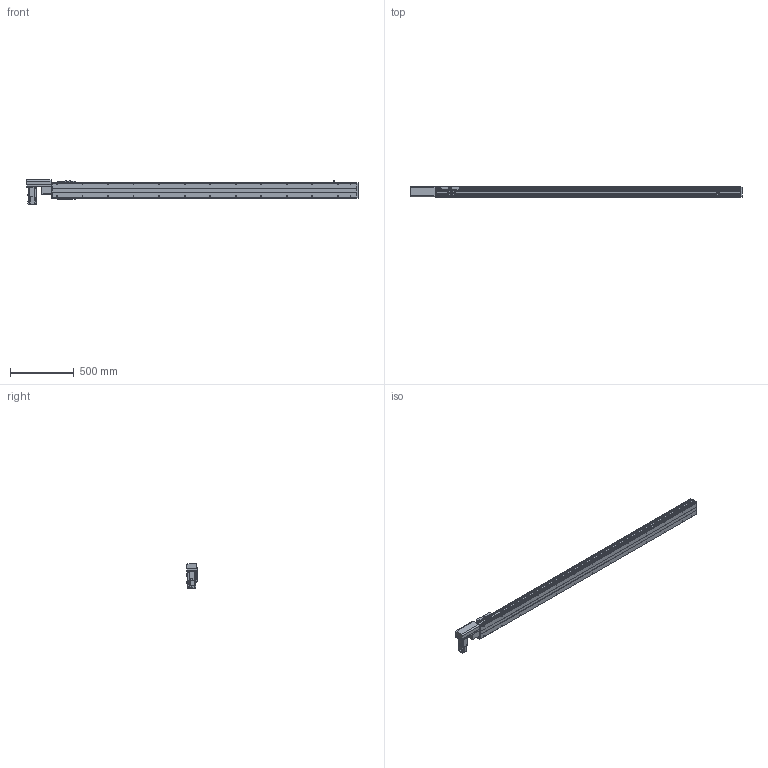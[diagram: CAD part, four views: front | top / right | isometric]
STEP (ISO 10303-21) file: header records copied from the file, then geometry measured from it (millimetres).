
FILE_DESCRIPTION(/* description */ ('STEP AP214'),/* implementation_level */ '2;1');
FILE_NAME(/* name */ 'PBS120-P40-S2100-R-T40-C1-N(0)',/* time_stamp */ '2022-06-06T02:09:27+02:00',/* author */ ('License CC BY-ND 4.0'),/* organization */ ('CADENAS'),/* preprocessor_version */ 'ST-DEVELOPER v18.102',/* originating_system */ 'PARTsolutions',/* authorisation */ ' ');
FILE_SCHEMA (('AUTOMOTIVE_DESIGN {1 0 10303 214 3 1 1}'));
Length unit declared in the file: millimetre
Products named in the file (7): PBS120-P40-S2100-R-T40-C1-N(0); PBS120_sensor; PBS120_plant; PBS120_sliser; T40-p1; PBS120T-R_motors; PBS120-S2100()_body
Assembly tree (8 placements, depth 2):
  PBS120-P40-S2100-R-T40-C1-N(0)
    PBS120_sensor  x3
    PBS120_plant
    PBS120_sliser
    T40-p1
    PBS120T-R_motors
    PBS120-S2100()_body
Bounding box: 2601 x 83 x 189.7 mm (x, y, z)
Volume: 9541637.2 mm3; surface area: 1953800.4 mm2
Topology: 8 solids, 8 shells, 858 faces, 2206 edges, 1417 vertices
Faces by surface type: plane 559, cylinder 239, cone 58, torus 2
Full cylindrical faces by diameter (mm): 2.459 x6, 3.242 x4, 4 x2, 4.134 x4, 4.5 x10, 4.917 x30, 5.5 x11, 6 x2, 6.6 x1, 7 x2, 8.5 x4, 9 x4, 12 x1, 14 x1, 30 x2, 40 x1, 50 x2
Entity records: 22194 total; most frequent: DIRECTION 3860, CARTESIAN_POINT 3767, ORIENTED_EDGE 3562, EDGE_CURVE 1781, AXIS2_PLACEMENT_3D 1316, LINE 1228, VECTOR 1228, VERTEX_POINT 1223
